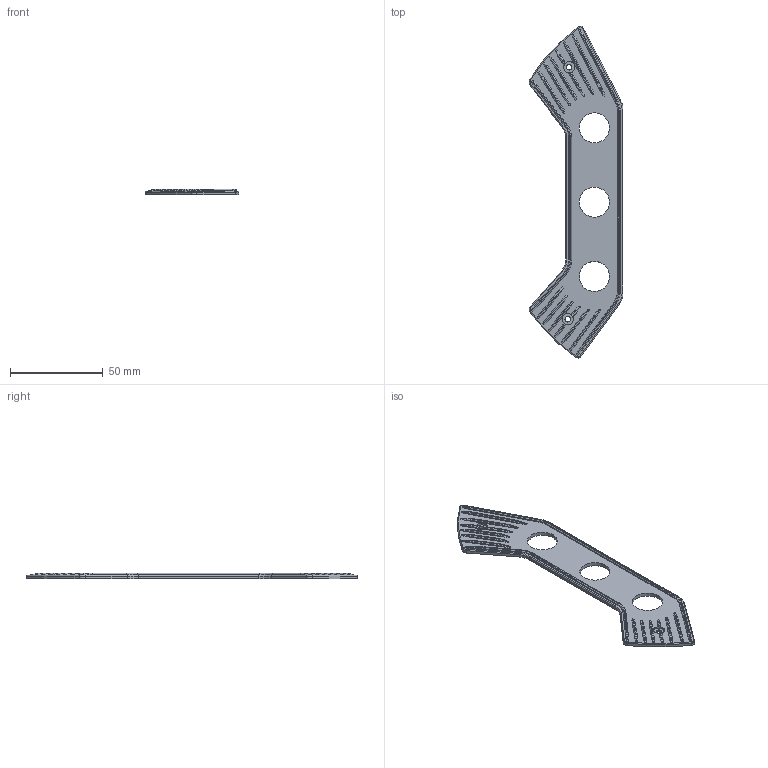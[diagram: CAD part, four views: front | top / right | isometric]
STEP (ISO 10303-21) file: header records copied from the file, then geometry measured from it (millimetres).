
FILE_DESCRIPTION(/* description */ (''),/* implementation_level */ '2;1');
FILE_NAME(/* name */ 'LAST_BASE 02.stp',/* time_stamp */ '2025-11-19T23:11:25+09:00',/* author */ (''),/* organization */ (''),/* preprocessor_version */ 'ST-DEVELOPER v11',/* originating_system */ 'SIEMENS PLM Software NX 7.5',/* authorisation */ '');
FILE_SCHEMA (('CONFIG_CONTROL_DESIGN'));
Length unit declared in the file: millimetre
Products named in the file (1): gyun8741ysfs
Bounding box: 50.56 x 178.71 x 3 mm (x, y, z)
Volume: 10743.8 mm3; surface area: 11988.5 mm2
Topology: 1 solids, 1 shells, 321 faces, 775 edges, 470 vertices
Faces by surface type: bspline 112, cylinder 70, plane 65, torus 46, cone 28
Full cylindrical faces by diameter (mm): 3 x2, 6 x2, 16.2 x3
Entity records: 11947 total; most frequent: CARTESIAN_POINT 5221, ORIENTED_EDGE 1528, DIRECTION 1195, EDGE_CURVE 764, AXIS2_PLACEMENT_3D 510, VERTEX_POINT 466, EDGE_LOOP 352, ADVANCED_FACE 321
